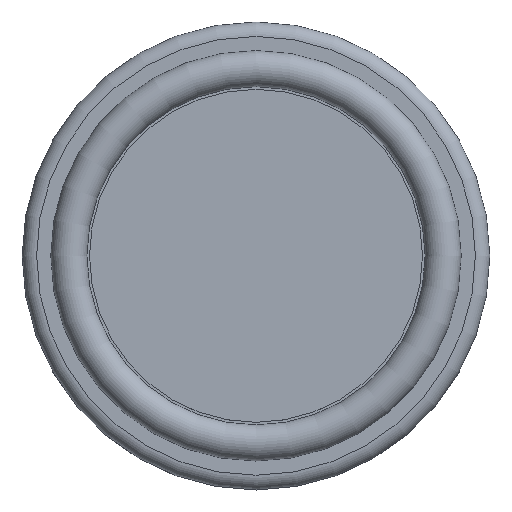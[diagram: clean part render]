
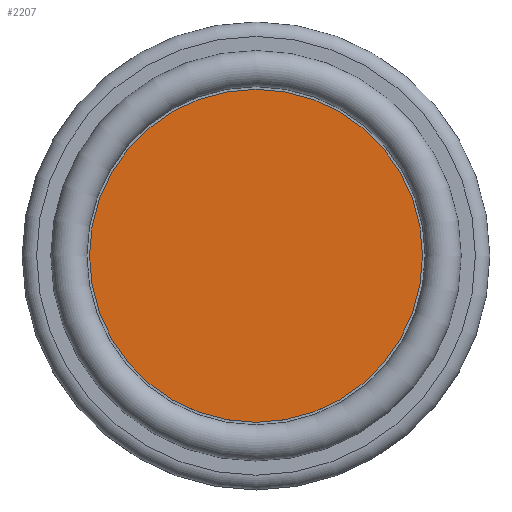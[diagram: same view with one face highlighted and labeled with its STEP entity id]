
A CAD part, top view. The second image highlights one B-rep face of the part: STEP entity #2207.
In plain terms, the highlighted planar face has unit normal (0, 0, 1).
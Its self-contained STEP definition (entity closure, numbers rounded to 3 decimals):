
#2207=ADVANCED_FACE('',(#5516),#5517,.T.);
#5516=FACE_OUTER_BOUND('',#9055,.T.);
#5517=PLANE('',#9056);
#9055=EDGE_LOOP('',(#20383));
#9056=AXIS2_PLACEMENT_3D('',#20384,#20385,#20386);
#20383=ORIENTED_EDGE('',*,*,#24135,.T.);
#20384=CARTESIAN_POINT('',(31.645,22.567,37.32));
#20385=DIRECTION('',(0.0,0.0,1.0));
#20386=DIRECTION('',(1.0,0.0,0.0));
#24135=EDGE_CURVE('',#29896,#29896,#29897,.T.);
#29896=VERTEX_POINT('',#38624);
#29897=CIRCLE('',#38625,11.5);
#38624=CARTESIAN_POINT('',(43.145,22.567,37.32));
#38625=AXIS2_PLACEMENT_3D('',#43325,#43326,#43327);
#43325=CARTESIAN_POINT('',(31.645,22.567,37.32));
#43326=DIRECTION('',(0.0,0.0,1.0));
#43327=DIRECTION('',(1.0,0.0,0.0));
